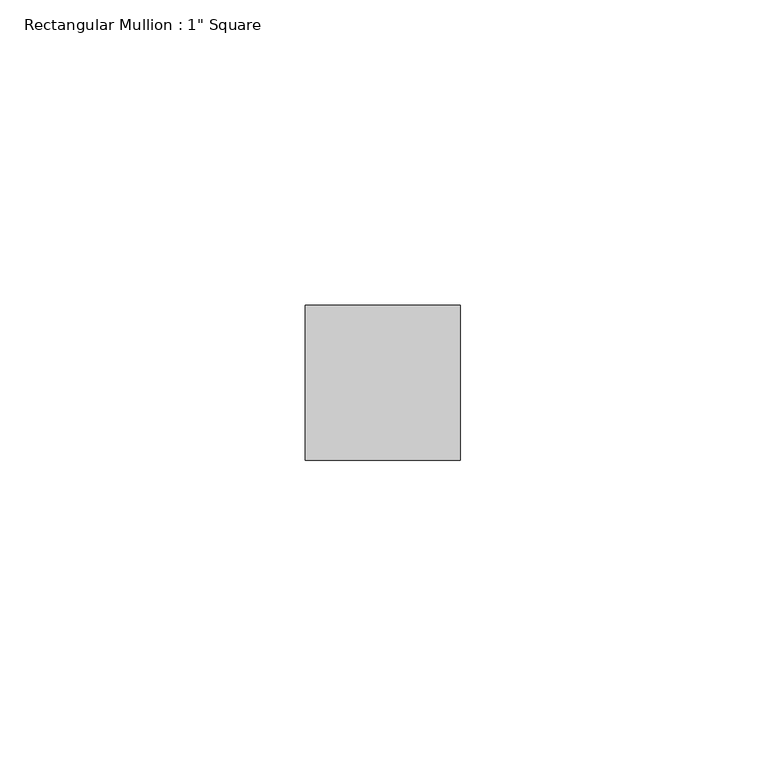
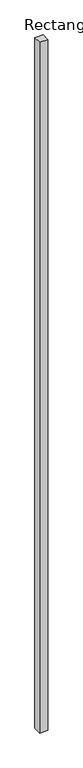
"""IFC4 building model written with IfcOpenShell, lengths in millimetres: member geometry."""

from ifc_helpers import new_model, si_unit, frame, origin, place, context, project, spatial, polyline, outline, extrude, source, transform, mapped, element, save


def member_bcb438f9(model_context):
    return source(origin(), model_context, "Body", "SweptSolid", [
        extrude(outline(polyline([(12.7, 12.7), (12.7, -12.7), (-12.7, -12.7), (-12.7, 12.7), (12.7, 12.7)])), frame((0.0, 0.0, -2248.3612103), z_axis=(0.0, 0.0, 1.0), x_axis=(1.0, 0.0, 0.0)), (0.0, 0.0, 1.0), 2248.3612103),
    ])


if __name__ == "__main__":
    model = new_model("IFC4")
    model_context = context("Model", 3, world=origin())
    ifc_project = project(units=[si_unit("LENGTHUNIT", "METRE", prefix="MILLI")], contexts=[model_context])
    site = spatial("IfcSite", under=ifc_project)
    building = spatial("IfcBuilding", under=site)
    placement = place(None, origin())
    member_shape = member_bcb438f9(model_context)
    element("IfcMember", 1, ObjectType="Rectangular Mullion : 1\" Square", at=placement, inside=building, context=model_context, shape_type="MappedRepresentation", body=[
        mapped(member_shape, transform((0.0, 0.0, 0.0), x_axis=(1.0, 0.0, 0.0), y_axis=(0.0, 1.0, 0.0), z_axis=(0.0, 0.0, 1.0))),
    ])
    save(model, "model.ifc")
